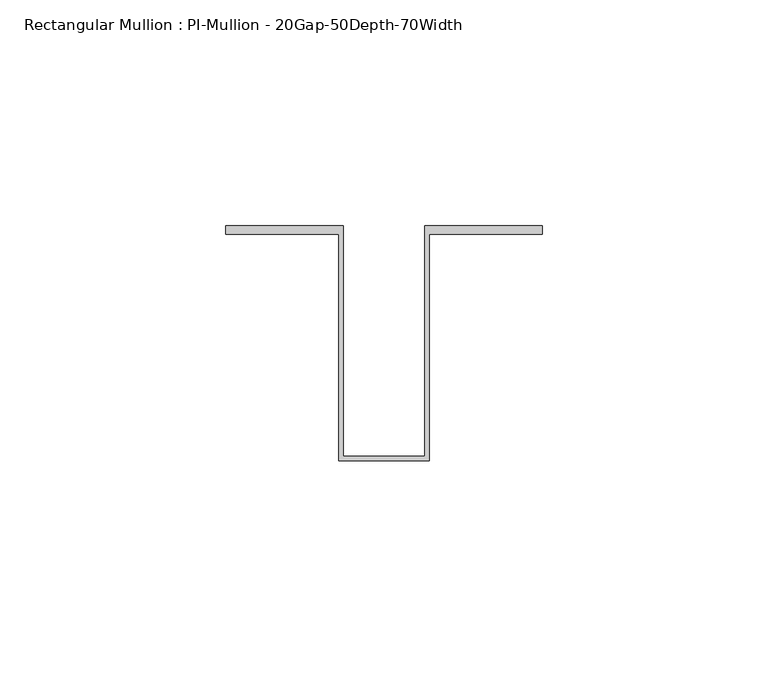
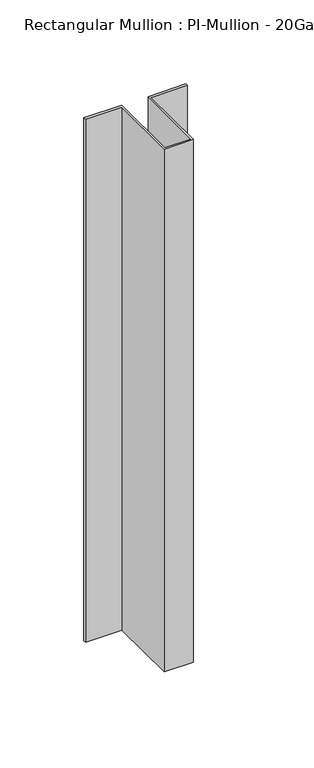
"""IFC4 building model written with IfcOpenShell, lengths in millimetres: member geometry, Rectangular Mullion : PI-Mullion - 20Gap-50Depth-70Width."""

from ifc_helpers import new_model, si_unit, frame, origin, place, context, project, spatial, polyline, outline, extrude, source, transform, mapped, element, save


def rectangular_mullion_pi_mullion_20gap_50depth_70width_81056362(model_context):
    return source(origin(), model_context, "Body", "SweptSolid", [
        extrude(outline(polyline([(10.0, 0.2), (10.0, -50.0), (-10.0, -50.0), (-10.0, 0.2), (-35.0, 0.2), (-35.0, 2.0), (-9.0, 2.0), (-9.0, -49.0), (9.0, -49.0), (9.0, 2.0), (35.0, 2.0), (35.0, 0.2), (10.0, 0.2)])), frame((0.0, 0.0, -379.9704237), z_axis=(0.0, 0.0, 1.0), x_axis=(1.0, 0.0, 0.0)), (0.0, 0.0, 1.0), 379.9704237),
    ])


if __name__ == "__main__":
    model = new_model("IFC4")
    model_context = context("Model", 3, world=origin())
    ifc_project = project(units=[si_unit("LENGTHUNIT", "METRE", prefix="MILLI")], contexts=[model_context])
    site = spatial("IfcSite", under=ifc_project)
    building = spatial("IfcBuilding", under=site)
    placement = place(None, origin())
    rectangular_mullion_pi_mullion_20gap_50depth_70width_shape = rectangular_mullion_pi_mullion_20gap_50depth_70width_81056362(model_context)
    element("IfcMember", 1, ObjectType="Rectangular Mullion : PI-Mullion - 20Gap-50Depth-70Width", at=placement, inside=building, context=model_context, shape_type="MappedRepresentation", body=[
        mapped(rectangular_mullion_pi_mullion_20gap_50depth_70width_shape, transform((0.0, 0.0, 0.0), x_axis=(1.0, 0.0, 0.0), y_axis=(0.0, 1.0, 0.0), z_axis=(0.0, 0.0, 1.0))),
    ])
    save(model, "model.ifc")
